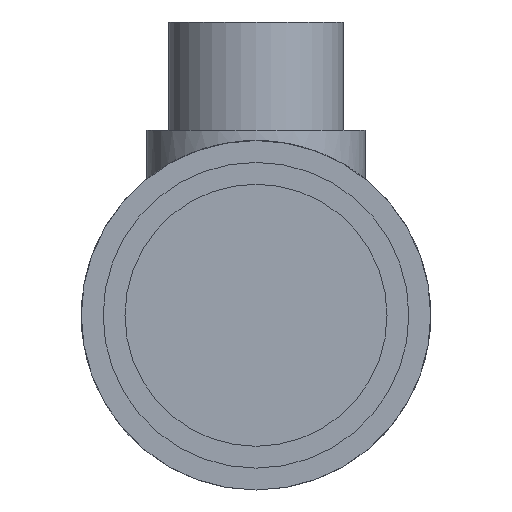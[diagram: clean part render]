
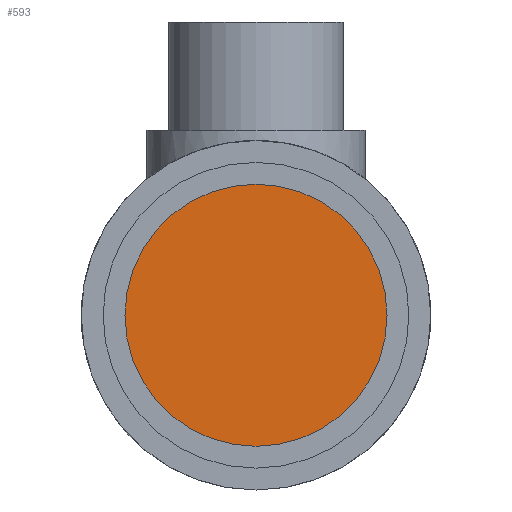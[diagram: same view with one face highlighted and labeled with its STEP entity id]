
A CAD part, front view. The second image highlights one B-rep face of the part: STEP entity #593.
In plain terms, the highlighted planar face has unit normal (0, -1, 0).
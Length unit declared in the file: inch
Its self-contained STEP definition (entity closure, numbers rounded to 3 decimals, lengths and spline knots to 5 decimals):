
#65 = EDGE_LOOP ( 'NONE', ( #958, #627 ) ) ;
#124 = AXIS2_PLACEMENT_3D ( 'NONE', #544, #531, #518 ) ;
#127 = AXIS2_PLACEMENT_3D ( 'NONE', #516, #559, #553 ) ;
#189 = DIRECTION ( 'NONE',  ( 0., -1., 0. ) ) ;
#195 = CARTESIAN_POINT ( 'NONE',  ( 0., -1.5, 0. ) ) ;
#196 = DIRECTION ( 'NONE',  ( 0., 0., -1. ) ) ;
#199 = PLANE ( 'NONE',  #952 ) ;
#286 = VERTEX_POINT ( 'NONE', #339 ) ;
#287 = VERTEX_POINT ( 'NONE', #310 ) ;
#310 = CARTESIAN_POINT ( 'NONE',  ( 0., -1.5, 0.375 ) ) ;
#339 = CARTESIAN_POINT ( 'NONE',  ( 0., -1.5, -0.375 ) ) ;
#516 = CARTESIAN_POINT ( 'NONE',  ( 0., -1.5, 0. ) ) ;
#518 = DIRECTION ( 'NONE',  ( 0., 0., -1. ) ) ;
#531 = DIRECTION ( 'NONE',  ( 0., -1., 0. ) ) ;
#544 = CARTESIAN_POINT ( 'NONE',  ( 0., -1.5, 0. ) ) ;
#553 = DIRECTION ( 'NONE',  ( 0., 0., -1. ) ) ;
#559 = DIRECTION ( 'NONE',  ( 0., -1., 0. ) ) ;
#593 = ADVANCED_FACE ( 'NONE', ( #634 ), #199, .T. ) ;
#627 = ORIENTED_EDGE ( 'NONE', *, *, #869, .T. ) ;
#634 = FACE_OUTER_BOUND ( 'NONE', #65, .T. ) ;
#707 = CIRCLE ( 'NONE', #127, 0.375 ) ;
#733 = CIRCLE ( 'NONE', #124, 0.375 ) ;
#869 = EDGE_CURVE ( 'NONE', #286, #287, #707, .T. ) ;
#874 = EDGE_CURVE ( 'NONE', #287, #286, #733, .T. ) ;
#952 = AXIS2_PLACEMENT_3D ( 'NONE', #195, #189, #196 ) ;
#958 = ORIENTED_EDGE ( 'NONE', *, *, #874, .T. ) ;
